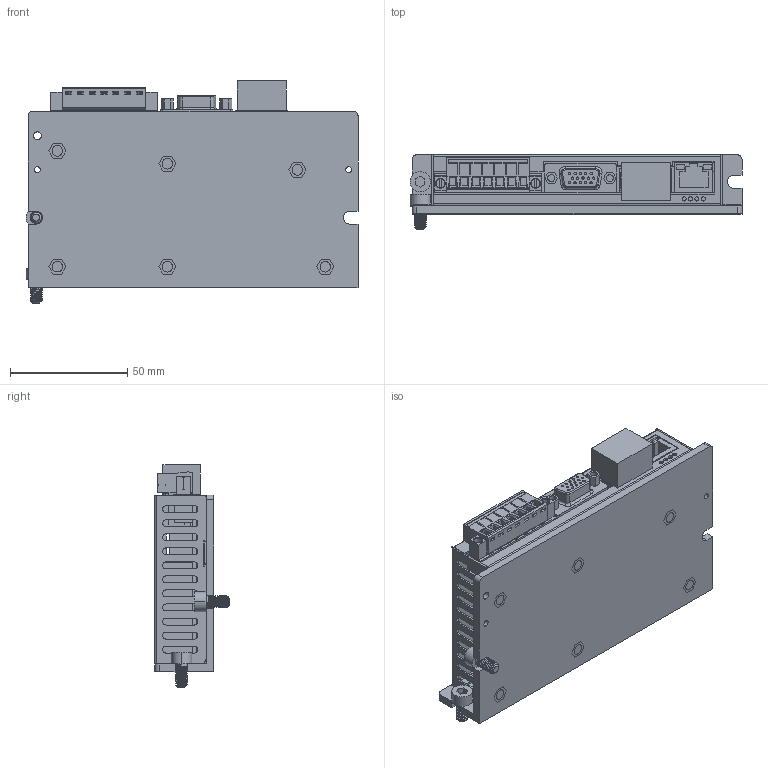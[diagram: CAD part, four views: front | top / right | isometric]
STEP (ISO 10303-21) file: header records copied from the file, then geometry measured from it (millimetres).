
FILE_DESCRIPTION((''),'2;1');
FILE_NAME('FD124S_ASM','2019-03-28T18:19:34',('RD0060'),(''),'CREO PARAMETRIC BY PTC INC, 2016390','CREO PARAMETRIC BY PTC INC, 2016390','');
FILE_SCHEMA(('CONFIG_CONTROL_DESIGN'));
Length unit declared in the file: millimetre
Products named in the file (17): PCB; CED-6; WEBKOU_15; DINKLE-0156-2512L; DINKLE-0156-2512L-G; DINKLE-0156-2512L_ASM; BOMA_4; 9ZHEN-DAOLISHI_2; DINKLE_2ESDVM-07P; PCB-ASM_ASM; HT-WU; BSO-M3X7; HT-WU_ASM; TOP; THERMAL; M5X10; FD124S_ASM
Assembly tree (24 placements, depth 4):
  FD124S_ASM
    PCB-ASM_ASM
      PCB
      CED-6
      WEBKOU_15  x3
      DINKLE-0156-2512L_ASM
        DINKLE-0156-2512L
        DINKLE-0156-2512L-G
      BOMA_4
      9ZHEN-DAOLISHI_2
      DINKLE_2ESDVM-07P
    HT-WU_ASM
      HT-WU
      BSO-M3X7  x6
    TOP
    THERMAL
    M5X10  x2
Bounding box: 141.86 x 32 x 95.1 mm (x, y, z)
Volume: 106583.9 mm3; surface area: 103219.5 mm2
Topology: 21 solids, 21 shells, 1694 faces, 4234 edges, 2756 vertices
Faces by surface type: plane 1001, cylinder 533, torus 69, cone 68, bspline 16, sphere 7
Entity records: 48426 total; most frequent: CARTESIAN_POINT 10968, DIRECTION 7831, ORIENTED_EDGE 7582, EDGE_CURVE 3791, AXIS2_PLACEMENT_3D 2686, VERTEX_POINT 2467, VECTOR 2459, LINE 2459
